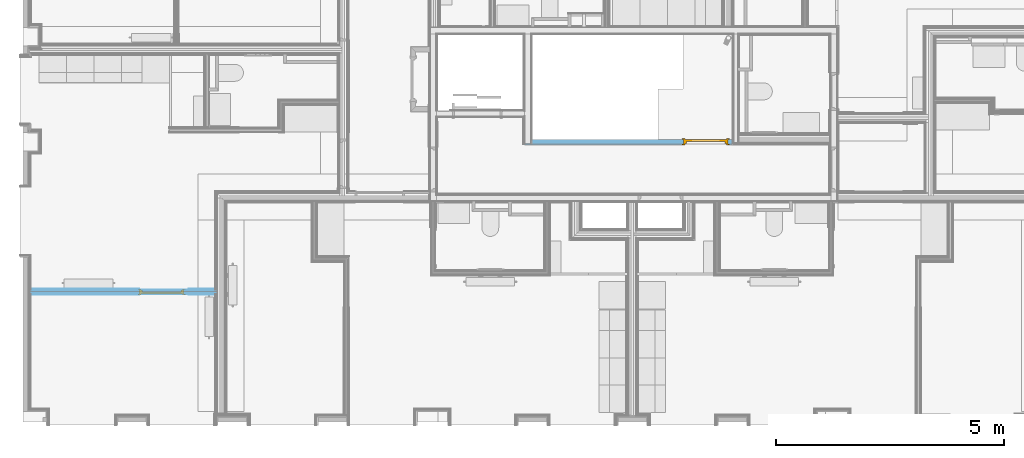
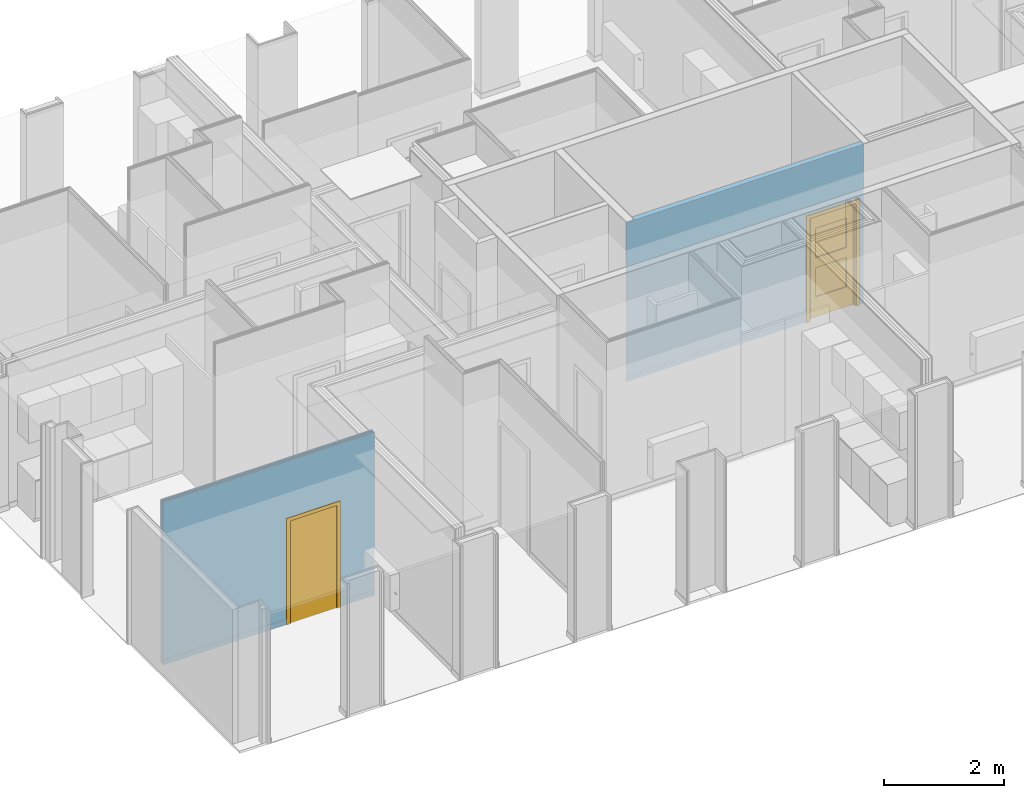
# One storey, part 47 of 64: 2 doors, 2 openings, 1 element without a shape of its own, plus 8 elements that do not belong to this part.
"""IFC2X3 building model written with IfcOpenShell, lengths in metres."""

from ifc_helpers import new_model, entity, si_unit, converted_unit, derived_unit, money_unit, direction, frame, frame_2d, origin_with_axes, place, context, subcontext, project, spatial, polyline, rectangle, outline, extrude, clip, bounded_halfspace, faceted_brep, material, layer, layer_set, layer_usage, type_object, element, fill, aggregate, save


model = new_model("IFC2X3")

# Units and contexts
model_context = context("Model", 3, precision=1e-05, world=origin_with_axes(), true_north=direction((0.0, 1.0)))
body_context = subcontext(model_context, "Body", "Model", "MODEL_VIEW", scale=1.0)
ifc_project = project(units=[si_unit("LENGTHUNIT", "METRE"), si_unit("AREAUNIT", "SQUARE_METRE"), si_unit("VOLUMEUNIT", "CUBIC_METRE"), si_unit("ABSORBEDDOSEUNIT", "GRAY"), si_unit("AMOUNTOFSUBSTANCEUNIT", "MOLE"), si_unit("DOSEEQUIVALENTUNIT", "SIEVERT"), si_unit("ELECTRICCAPACITANCEUNIT", "FARAD"), si_unit("ELECTRICCHARGEUNIT", "COULOMB"), si_unit("ELECTRICCONDUCTANCEUNIT", "SIEMENS"), si_unit("ELECTRICCURRENTUNIT", "AMPERE"), si_unit("ELECTRICRESISTANCEUNIT", "OHM"), si_unit("ELECTRICVOLTAGEUNIT", "VOLT"), si_unit("ENERGYUNIT", "JOULE"), si_unit("FORCEUNIT", "NEWTON"), si_unit("FREQUENCYUNIT", "HERTZ"), si_unit("ILLUMINANCEUNIT", "LUX"), si_unit("INDUCTANCEUNIT", "HENRY"), si_unit("LUMINOUSFLUXUNIT", "LUMEN"), si_unit("LUMINOUSINTENSITYUNIT", "CANDELA"), si_unit("MAGNETICFLUXDENSITYUNIT", "TESLA"), si_unit("MAGNETICFLUXUNIT", "WEBER"), si_unit("MASSUNIT", "GRAM"), converted_unit("PLANEANGLEUNIT", "degree", entity("IfcReal", 0.0174532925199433), si_unit("PLANEANGLEUNIT", "RADIAN"), dimensions=[0, 0, 0, 0, 0, 0, 0]), si_unit("POWERUNIT", "WATT"), si_unit("PRESSUREUNIT", "PASCAL"), si_unit("RADIOACTIVITYUNIT", "BECQUEREL"), si_unit("SOLIDANGLEUNIT", "STERADIAN"), si_unit("THERMODYNAMICTEMPERATUREUNIT", "KELVIN"), si_unit("TIMEUNIT", "SECOND"), derived_unit("ACCELERATIONUNIT", [(si_unit("LENGTHUNIT", "METRE"), 1), (si_unit("TIMEUNIT", "SECOND"), -2)]), derived_unit("ANGULARVELOCITYUNIT", [(converted_unit("PLANEANGLEUNIT", "degree", entity("IfcReal", 0.0174532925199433), si_unit("PLANEANGLEUNIT", "RADIAN"), dimensions=[0, 0, 0, 0, 0, 0, 0]), 1), (si_unit("TIMEUNIT", "SECOND"), -1)]), derived_unit("CURVATUREUNIT", [(converted_unit("PLANEANGLEUNIT", "degree", entity("IfcReal", 0.0174532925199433), si_unit("PLANEANGLEUNIT", "RADIAN"), dimensions=[0, 0, 0, 0, 0, 0, 0]), 1), (si_unit("LENGTHUNIT", "METRE"), -1)]), derived_unit("DYNAMICVISCOSITYUNIT", [(si_unit("PRESSUREUNIT", "PASCAL"), 1), (si_unit("TIMEUNIT", "SECOND"), 1)]), derived_unit("HEATFLUXDENSITYUNIT", [(si_unit("POWERUNIT", "WATT"), 1), (si_unit("LENGTHUNIT", "METRE"), -2)]), derived_unit("HEATINGVALUEUNIT", [(si_unit("ENERGYUNIT", "JOULE"), 1), (si_unit("MASSUNIT", "GRAM"), -1)]), derived_unit("INTEGERCOUNTRATEUNIT", [(si_unit("TIMEUNIT", "SECOND"), -1)]), derived_unit("IONCONCENTRATIONUNIT", [(si_unit("MASSUNIT", "GRAM"), 1), (si_unit("VOLUMEUNIT", "CUBIC_METRE"), -1)]), derived_unit("ISOTHERMALMOISTURECAPACITYUNIT", [(si_unit("VOLUMEUNIT", "CUBIC_METRE"), 1), (si_unit("MASSUNIT", "GRAM"), -1)]), derived_unit("KINEMATICVISCOSITYUNIT", [(si_unit("AREAUNIT", "SQUARE_METRE"), 1), (si_unit("TIMEUNIT", "SECOND"), -1)]), derived_unit("LINEARFORCEUNIT", [(si_unit("FORCEUNIT", "NEWTON"), 1), (si_unit("LENGTHUNIT", "METRE"), -1)]), derived_unit("LINEARMOMENTUNIT", [(si_unit("FORCEUNIT", "NEWTON"), 1), (si_unit("LENGTHUNIT", "METRE"), -1)]), derived_unit("LINEARSTIFFNESSUNIT", [(si_unit("FORCEUNIT", "NEWTON"), 1), (si_unit("LENGTHUNIT", "METRE"), -1)]), derived_unit("LINEARVELOCITYUNIT", [(si_unit("LENGTHUNIT", "METRE"), 1), (si_unit("TIMEUNIT", "SECOND"), -1)]), derived_unit("LUMINOUSINTENSITYDISTRIBUTIONUNIT", [(si_unit("LUMINOUSINTENSITYUNIT", "CANDELA"), 1), (si_unit("LUMINOUSFLUXUNIT", "LUMEN"), -1)]), derived_unit("MASSDENSITYUNIT", [(si_unit("MASSUNIT", "GRAM"), 1), (si_unit("VOLUMEUNIT", "CUBIC_METRE"), -1)]), derived_unit("MASSFLOWRATEUNIT", [(si_unit("MASSUNIT", "GRAM"), 1), (si_unit("TIMEUNIT", "SECOND"), -1)]), derived_unit("MASSPERLENGTHUNIT", [(si_unit("MASSUNIT", "GRAM"), 1), (si_unit("LENGTHUNIT", "METRE"), -1)]), derived_unit("MODULUSOFELASTICITYUNIT", [(si_unit("FORCEUNIT", "NEWTON"), 1), (si_unit("AREAUNIT", "SQUARE_METRE"), -1)]), derived_unit("MODULUSOFLINEARSUBGRADEREACTIONUNIT", [(si_unit("FORCEUNIT", "NEWTON"), 1), (si_unit("LENGTHUNIT", "METRE"), -2)]), derived_unit("MODULUSOFROTATIONALSUBGRADEREACTIONUNIT", [(si_unit("FORCEUNIT", "NEWTON"), 1), (si_unit("LENGTHUNIT", "METRE"), 1)]), derived_unit("MODULUSOFSUBGRADEREACTIONUNIT", [(si_unit("FORCEUNIT", "NEWTON"), 1), (si_unit("VOLUMEUNIT", "CUBIC_METRE"), -1)]), derived_unit("MOISTUREDIFFUSIVITYUNIT", [(si_unit("VOLUMEUNIT", "CUBIC_METRE"), 1), (si_unit("TIMEUNIT", "SECOND"), -1)]), derived_unit("MOLECULARWEIGHTUNIT", [(si_unit("MASSUNIT", "GRAM"), 1), (si_unit("AMOUNTOFSUBSTANCEUNIT", "MOLE"), -1)]), derived_unit("PLANARFORCEUNIT", [(si_unit("FORCEUNIT", "NEWTON"), 1), (si_unit("LENGTHUNIT", "METRE"), -2)]), derived_unit("ROTATIONALFREQUENCYUNIT", [(si_unit("TIMEUNIT", "SECOND"), -1)]), derived_unit("ROTATIONALMASSUNIT", [(si_unit("MASSUNIT", "GRAM"), 1), (si_unit("LENGTHUNIT", "METRE"), 2)]), derived_unit("ROTATIONALSTIFFNESSUNIT", [(si_unit("FORCEUNIT", "NEWTON"), 1), (si_unit("LENGTHUNIT", "METRE"), 1), (converted_unit("PLANEANGLEUNIT", "degree", entity("IfcReal", 0.0174532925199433), si_unit("PLANEANGLEUNIT", "RADIAN"), dimensions=[0, 0, 0, 0, 0, 0, 0]), -1)]), derived_unit("SECTIONAREAINTEGRALUNIT", [(si_unit("LENGTHUNIT", "METRE"), 5)]), derived_unit("SECTIONMODULUSUNIT", [(si_unit("LENGTHUNIT", "METRE"), 3)]), derived_unit("SHEARMODULUSUNIT", [(si_unit("FORCEUNIT", "NEWTON"), 1), (si_unit("AREAUNIT", "SQUARE_METRE"), -1)]), derived_unit("SOUNDPOWERUNIT", [(si_unit("ENERGYUNIT", "JOULE"), 1), (si_unit("TIMEUNIT", "SECOND"), -1)]), derived_unit("SPECIFICHEATCAPACITYUNIT", [(si_unit("FORCEUNIT", "NEWTON"), 1), (si_unit("MASSUNIT", "GRAM"), -1), (si_unit("THERMODYNAMICTEMPERATUREUNIT", "KELVIN"), -1)]), derived_unit("TEMPERATUREGRADIENTUNIT", [(si_unit("THERMODYNAMICTEMPERATUREUNIT", "KELVIN"), 1), (si_unit("LENGTHUNIT", "METRE"), -1)]), derived_unit("THERMALADMITTANCEUNIT", [(si_unit("POWERUNIT", "WATT"), 1), (si_unit("AREAUNIT", "SQUARE_METRE"), -1), (si_unit("THERMODYNAMICTEMPERATUREUNIT", "KELVIN"), -1)]), derived_unit("THERMALCONDUCTANCEUNIT", [(si_unit("POWERUNIT", "WATT"), 1), (si_unit("LENGTHUNIT", "METRE"), -1), (si_unit("THERMODYNAMICTEMPERATUREUNIT", "KELVIN"), -1)]), derived_unit("THERMALEXPANSIONCOEFFICIENTUNIT", [(si_unit("THERMODYNAMICTEMPERATUREUNIT", "KELVIN"), -1)]), derived_unit("THERMALRESISTANCEUNIT", [(si_unit("AREAUNIT", "SQUARE_METRE"), 1), (si_unit("POWERUNIT", "WATT"), -1)]), derived_unit("THERMALTRANSMITTANCEUNIT", [(si_unit("POWERUNIT", "WATT"), 1), (si_unit("AREAUNIT", "SQUARE_METRE"), -1), (si_unit("THERMODYNAMICTEMPERATUREUNIT", "KELVIN"), -1)]), derived_unit("TORQUEUNIT", [(si_unit("FORCEUNIT", "NEWTON"), 1), (si_unit("LENGTHUNIT", "METRE"), 1)]), derived_unit("VAPORPERMEABILITYUNIT", [(si_unit("MASSUNIT", "GRAM"), 1), (si_unit("TIMEUNIT", "SECOND"), -1)]), derived_unit("VOLUMETRICFLOWRATEUNIT", [(si_unit("VOLUMEUNIT", "CUBIC_METRE"), 1), (si_unit("TIMEUNIT", "SECOND"), -1)]), derived_unit("WARPINGCONSTANTUNIT", [(si_unit("LENGTHUNIT", "METRE"), 6)]), derived_unit("WARPINGMOMENTUNIT", [(si_unit("FORCEUNIT", "NEWTON"), 1), (si_unit("LENGTHUNIT", "METRE"), 2)]), money_unit("GBP")], contexts=[model_context])

# Site, building, storey
site_placement = place(None, origin_with_axes())
site = spatial("IfcSite", under=ifc_project, at=site_placement, Name="Site", CompositionType="ELEMENT")
building_placement = place(site_placement, origin_with_axes())
building = spatial("IfcBuilding", under=site, at=building_placement, Name="Building01", CompositionType="ELEMENT")
storey_placement = place(building_placement, frame((0.0, 0.0, 8.64), z_axis=(0.0, 0.0, 1.0), x_axis=(1.0, 0.0, 0.0)))
storey = spatial("IfcBuildingStorey", under=building, at=storey_placement, Name="2F", CompositionType="ELEMENT", Elevation=8.64)

# Wall, opening
ifc_material_1 = material(Name="A_BSUK_Walls_Timber")
ifc_layer_1 = layer(ifc_material_1, 0.015, ventilated=False)
ifc_material_2 = material(Name="A_BSUK_WallInternal_Finishes_Plasterboard")
ifc_layer_2 = layer(ifc_material_2, 0.013, ventilated=False)
ifc_layer_3 = layer(ifc_material_2, 0.012, ventilated=False)
ifc_material_3 = material(Name="Air Cavity")
ifc_layer_4 = layer(ifc_material_3, 0.05, ventilated=False)
ifc_layer_set = layer_set([ifc_layer_1, ifc_layer_2, ifc_layer_3, ifc_layer_4, ifc_layer_3, ifc_layer_2])
ifc_layer_usage = layer_usage(ifc_layer_set, "AXIS2", "POSITIVE", 0.0)
wall_type_1 = type_object("IfcWallType", Name="SHE_A-Walls_Type03c_Firewall_F120_100mm", PredefinedType="NOTDEFINED")
wall_1_placement = place(storey_placement, frame((11.115, 6.25, 0.015), z_axis=(0.0, 0.0, 1.0), x_axis=(1.0, 0.0, 0.0)))
wall_1 = element("IfcWallStandardCase", 1, at=wall_1_placement, inside=storey, type_object=wall_type_1, material=ifc_layer_usage, Name="3C", ObjectType="SHE_A-Walls_Type03c_Firewall_F120_100mm", context=body_context, shape_type="Clipping", body=[
    clip(clip(extrude(outline(polyline([(4.585, 0.0), (4.585, 0.1), (0.185, 0.1), (0.185, 0.013), (0.015, 0.013), (0.015, 0.0), (0.0, 0.0), (0.0, -0.015), (4.57, -0.015), (4.585, 0.0)])), frame((0.0, 0.0, -0.015), z_axis=(0.0, 0.0, 1.0), x_axis=(1.0, 0.0, 0.0)), (0.0, 0.0, 1.0), 3.24), bounded_halfspace(frame((0.0, 0.0, 0.1), z_axis=(0.0, 0.0, 1.0), x_axis=(1.0, 0.0, 0.0)), False, frame((0.0, 0.0, 0.1), z_axis=(0.0, 0.0, 1.0), x_axis=(1.0, 0.0, 0.0)), polyline([(4.585, 0.0), (0.0, 0.0), (0.0, -0.015), (4.57, -0.015), (4.585, 0.0)]))), bounded_halfspace(frame((0.0, 0.0, 0.0), z_axis=(0.0, 0.0, -1.0), x_axis=(-1.0, 0.0, 0.0)), False, frame((0.0, 0.0, 0.0), z_axis=(0.0, 0.0, -1.0), x_axis=(-1.0, 0.0, 0.0)), polyline([(-4.57, -0.015), (0.0, -0.015), (0.0, 0.0), (-4.585, 0.0), (-4.57, -0.015)]))),
])
opening_1_placement = place(wall_1_placement, frame((3.501, -0.015, -0.03), z_axis=(0.0, 0.0, 1.0), x_axis=(1.0, 0.0, 0.0)))
opening_1 = element("IfcOpeningElement", 2, at=opening_1_placement, cuts=wall_1, Name="Opening", ObjectType="Opening", context=body_context, shape_type="SweptSolid", body=[
    extrude(rectangle(XDim=2.142, YDim=0.984, at=frame_2d((-0.492, 1.071), x_axis=(0.0, 1.0))), frame((0.0, 0.0, 0.0), z_axis=(0.0, 1.0, 0.0), x_axis=(-1.0, 0.0, 0.0)), (0.0, 0.0, 1.0), 0.115),
])

# Space
space_1_placement = place(storey_placement, frame((14.606971, 7.454282, 0.017932), z_axis=(0.0, 0.0, 1.0), x_axis=(-1.0, 0.0, 0.0)))
space_1 = spatial("IfcSpace", under=storey, at=space_1_placement, Name="landing", CompositionType="ELEMENT", InteriorOrExteriorSpace="NOTDEFINED")

# Door
ifc_material_4 = material(Name="A_BSUK_Doors")
door_style_1 = type_object("IfcDoorStyle", Name="A-Doors-SingleVisionPanels", ConstructionType="USERDEFINED", OperationType="SINGLE_SWING_RIGHT", ParameterTakesPrecedence=False, Sizeable=False)
door_1_placement = place(opening_1_placement, frame((0.042, 0.115, 0.015), z_axis=(0.0, 0.0, 1.0), x_axis=(1.0, 0.0, 0.0)))
door_1 = element("IfcDoor", 3, at=door_1_placement, inside=space_1, type_object=door_style_1, material=ifc_material_4, Name="2.04", ObjectType="A-Doors-SingleVisionPanels", OverallHeight=2.14200000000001, OverallWidth=0.984000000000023, context=body_context, shape_type="Brep", body=[
    faceted_brep([(0.9, -0.119, 0.0), (0.969, -0.119, 0.0), (0.969, -0.119, 2.169), (-0.069, -0.119, 2.169), (-0.069, -0.119, 0.0), (0.0, -0.119, 0.0), (0.0, -0.119, 2.1), (0.9, -0.119, 2.1), (-0.069, -0.1, 0.0), (-0.069, -0.1, 2.169), (0.969, -0.1, 2.169), (0.969, -0.1, 0.0), (0.9, 0.019, 0.0), (0.969, 0.019, 0.0), (0.969, 0.0, 0.0), (0.942, 0.0, 0.0), (0.942, -0.1, 0.0), (0.9, 0.019, 2.1), (0.0, 0.019, 2.1), (0.0, 0.019, 0.0), (-0.069, 0.019, 0.0), (-0.069, 0.019, 2.169), (0.969, 0.019, 2.169), (0.969, 0.0, 2.169), (0.942, -0.1, 2.142), (0.942, 0.0, 2.142), (-0.042, -0.1, 2.142), (-0.042, 0.0, 2.142), (-0.042, -0.1, 0.0), (-0.042, 0.0, 0.0), (-0.069, 0.0, 2.169), (-0.069, 0.0, 0.0)], [[[0, 1, 2, 3, 4, 5, 6, 7]], [[8, 4, 3, 9]], [[10, 2, 1, 11]], [[9, 3, 2, 10]], [[12, 13, 14, 15, 16, 11, 1, 0]], [[7, 17, 12, 0]], [[6, 18, 17, 7]], [[18, 19, 20, 21, 22, 13, 12, 17]], [[5, 19, 18, 6]], [[13, 22, 23, 14]], [[24, 16, 15, 25]], [[26, 24, 25, 27]], [[11, 16, 24, 26, 28, 8, 9, 10]], [[27, 29, 28, 26]], [[25, 15, 14, 23, 30, 31, 29, 27]], [[5, 4, 8, 28, 29, 31, 20, 19]], [[30, 21, 20, 31]], [[23, 22, 21, 30]]]),
    faceted_brep([(0.0, -0.09, 2.1), (0.0, -0.04, 2.1), (0.0, -0.04, 0.0), (0.0, -0.09, 0.0), (0.875, -0.09, 0.0), (0.9, -0.09, 0.0), (0.9, -0.09, 2.1), (0.025, -0.09, 0.0), (0.025, -0.09, 2.075), (0.875, -0.09, 2.075), (0.875, -0.04, 0.0), (0.9, -0.04, 0.0), (0.9, -0.04, 2.1), (0.025, -0.04, 2.075), (0.025, -0.04, 0.0), (0.875, -0.04, 2.075)], [[[0, 1, 2, 3]], [[4, 5, 6, 0, 3, 7, 8, 9]], [[10, 11, 5, 4]], [[6, 12, 1, 0]], [[5, 11, 12, 6]], [[13, 14, 2, 1, 12, 11, 10, 15]], [[7, 14, 13, 8]], [[7, 3, 2, 14]], [[9, 15, 10, 4]], [[8, 13, 15, 9]]]),
    faceted_brep([(0.75, -0.017, 1.0), (0.75, -0.023, 1.0), (0.75, -0.023, 0.4), (0.75, -0.017, 0.4), (0.15, -0.017, 0.4), (0.15, -0.023, 0.4), (0.15, -0.023, 1.0), (0.15, -0.017, 1.0)], [[[0, 1, 2, 3]], [[4, 5, 6, 7]], [[7, 6, 1, 0]], [[3, 4, 7, 0]], [[3, 2, 5, 4]], [[1, 6, 5, 2]]]),
    faceted_brep([(0.75, -0.017, 1.8), (0.75, -0.023, 1.8), (0.75, -0.023, 1.2), (0.75, -0.017, 1.2), (0.15, -0.017, 1.2), (0.15, -0.023, 1.2), (0.15, -0.023, 1.8), (0.15, -0.017, 1.8)], [[[0, 1, 2, 3]], [[4, 5, 6, 7]], [[7, 6, 1, 0]], [[3, 4, 7, 0]], [[3, 2, 5, 4]], [[1, 6, 5, 2]]]),
    faceted_brep([(0.15, -0.04, 1.8), (0.15, 0.0, 1.8), (0.75, 0.0, 1.8), (0.75, -0.04, 1.8), (0.15, -0.04, 0.4), (0.15, 0.0, 0.4), (0.15, 0.0, 1.0), (0.15, -0.04, 1.0), (0.75, -0.04, 0.4), (0.75, 0.0, 0.4), (0.75, -0.04, 1.0), (0.75, 0.0, 1.0), (0.0, 0.0, 2.1), (0.9, 0.0, 2.1), (0.9, 0.0, 0.0), (0.0, 0.0, 0.0), (0.15, 0.0, 1.2), (0.75, 0.0, 1.2), (0.0, -0.04, 2.1), (0.0, -0.04, 0.0), (0.9, -0.04, 2.1), (0.9, -0.04, 0.0), (0.15, -0.04, 1.2), (0.75, -0.04, 1.2)], [[[0, 1, 2, 3]], [[4, 5, 6, 7]], [[8, 9, 5, 4]], [[10, 11, 9, 8]], [[7, 6, 11, 10]], [[12, 13, 14, 15], [5, 9, 11, 6], [16, 17, 2, 1]], [[18, 12, 15, 19]], [[20, 13, 12, 18]], [[21, 14, 13, 20]], [[19, 15, 14, 21]], [[22, 16, 1, 0]], [[23, 17, 16, 22]], [[3, 2, 17, 23]], [[19, 21, 20, 18], [4, 7, 10, 8], [22, 0, 3, 23]]]),
])

fill(opening_1, door_1)

# Space
space_2_placement = place(storey_placement, frame((0.318, 8.21067, 0.017975), z_axis=(0.0, 0.0, 1.0), x_axis=(0.0, -1.0, 0.0)))
space_2 = spatial("IfcSpace", under=storey, at=space_2_placement, Name="13", CompositionType="ELEMENT", InteriorOrExteriorSpace="NOTDEFINED")

# Door
door_style_2 = type_object("IfcDoorStyle", Name="A-Doors-SingleFlush", ConstructionType="USERDEFINED", OperationType="SINGLE_SWING_LEFT", ParameterTakesPrecedence=False, Sizeable=False)
wall_2_placement = place(storey_placement, frame((0.318, 3.030286, 0.0), z_axis=(0.0, 0.0, 1.0), x_axis=(1.0, 0.0, 0.0)))
opening_2_placement = place(wall_2_placement, frame((2.391, -0.075, -0.03), z_axis=(0.0, 0.0, 1.0), x_axis=(1.0, 0.0, 0.0)))
door_2_placement = place(opening_2_placement, frame((0.942, 0.015, 0.03), z_axis=(0.0, 0.0, 1.0), x_axis=(-1.0, 0.0, 0.0)))
door_2 = element("IfcDoor", 4, at=door_2_placement, inside=space_2, type_object=door_style_2, material=ifc_material_4, Name="2.19", ObjectType="A-Doors-SingleFlush", OverallHeight=2.17200000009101, OverallWidth=1.08300000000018, context=body_context, shape_type="Brep", body=[
    faceted_brep([(0.0, -0.114, 2.1), (0.9, -0.114, 2.1), (0.9, -0.114, 0.0), (0.969, -0.114, 0.0), (0.969, -0.114, 2.169), (-0.069, -0.114, 2.169), (-0.069, -0.114, 0.0), (0.0, -0.114, 0.0), (0.969, -0.095, 2.169), (0.969, -0.095, 0.0), (-0.069, -0.095, 0.0), (-0.069, -0.095, 2.169), (-0.042, -0.095, 0.0), (-0.042, 0.0, 0.0), (-0.069, 0.0, 0.0), (-0.069, 0.019, 0.0), (0.0, 0.019, 0.0), (0.0, 0.019, 2.1), (0.9, 0.019, 2.1), (-0.069, 0.019, 2.169), (0.969, 0.019, 2.169), (0.969, 0.019, 0.0), (0.9, 0.019, 0.0), (-0.069, 0.0, 2.169), (-0.042, 0.0, 2.142), (-0.042, -0.095, 2.142), (0.942, 0.0, 2.142), (0.942, -0.095, 2.142), (0.942, -0.095, 0.0), (0.942, 0.0, 0.0), (0.969, 0.0, 0.0), (0.969, 0.0, 2.169)], [[[0, 1, 2, 3, 4, 5, 6, 7]], [[8, 4, 3, 9]], [[10, 6, 5, 11]], [[11, 5, 4, 8]], [[7, 6, 10, 12, 13, 14, 15, 16]], [[7, 16, 17, 0]], [[0, 17, 18, 1]], [[17, 16, 15, 19, 20, 21, 22, 18]], [[1, 18, 22, 2]], [[14, 23, 19, 15]], [[24, 13, 12, 25]], [[26, 24, 25, 27]], [[11, 8, 9, 28, 27, 25, 12, 10]], [[27, 28, 29, 26]], [[26, 29, 30, 31, 23, 14, 13, 24]], [[22, 21, 30, 29, 28, 9, 3, 2]], [[30, 21, 20, 31]], [[31, 20, 19, 23]]]),
    faceted_brep([(0.9, -0.09, 0.0), (0.9, -0.04, 0.0), (0.9, -0.04, 2.1), (0.9, -0.09, 2.1), (0.025, -0.09, 2.075), (0.875, -0.09, 2.075), (0.875, -0.09, 0.0), (0.0, -0.09, 2.1), (0.0, -0.09, 0.0), (0.025, -0.09, 0.0), (0.0, -0.04, 0.0), (0.025, -0.04, 0.0), (0.0, -0.04, 2.1), (0.025, -0.04, 2.075), (0.875, -0.04, 0.0), (0.875, -0.04, 2.075)], [[[0, 1, 2, 3]], [[4, 5, 6, 0, 3, 7, 8, 9]], [[9, 8, 10, 11]], [[3, 2, 12, 7]], [[7, 12, 10, 8]], [[13, 11, 10, 12, 2, 1, 14, 15]], [[5, 15, 14, 6]], [[14, 1, 0, 6]], [[9, 11, 13, 4]], [[4, 13, 15, 5]]]),
    faceted_brep([(0.0, -0.04, 2.1), (0.0, 0.0, 2.1), (0.0, 0.0, 0.0), (0.0, -0.04, 0.0), (0.9, -0.04, 0.0), (0.9, 0.0, 0.0), (0.9, 0.0, 2.1), (0.9, -0.04, 2.1)], [[[0, 1, 2, 3]], [[4, 5, 6, 7]], [[3, 2, 5, 4]], [[3, 4, 7, 0]], [[7, 6, 1, 0]], [[1, 6, 5, 2]]]),
])

# Wall, opening
wall_type_2 = type_object("IfcWallType", Name="SHE_A-Walls_Type05a_Partition_95mm_tall", PredefinedType="NOTDEFINED")
wall_2 = element("IfcWall", 5, at=wall_2_placement, inside=storey, type_object=wall_type_2, Name="5A", ObjectType="SHE_A-Walls_Type05a_Partition_95mm_tall")
opening_2 = element("IfcOpeningElement", 6, at=opening_2_placement, cuts=wall_2, Name="Opening", ObjectType="Opening", context=body_context, shape_type="SweptSolid", body=[
    extrude(outline(polyline([(-0.984, 0.0), (-0.099, 0.0), (-0.099, 0.03), (0.0, 0.03), (0.0, 2.172), (-0.984, 2.172), (-0.984, 0.0)])), frame((0.0, 0.0, 0.0), z_axis=(0.0, 1.0, 0.0), x_axis=(-1.0, 0.0, 0.0)), (0.0, 0.0, 1.0), 0.125),
    extrude(rectangle(XDim=0.984, YDim=2.172, at=frame_2d((-0.492, 1.086), x_axis=(1.0, 0.0))), frame((0.0, 0.015, 0.0), z_axis=(0.0, 1.0, 0.0), x_axis=(-1.0, 0.0, 0.0)), (0.0, 0.0, 1.0), 0.012),
    extrude(outline(polyline([(-0.099, 0.03), (0.0, 0.03), (0.0, 2.172), (-0.984, 2.172), (-0.984, 2.142), (-1.083, 2.142), (-1.083, 0.0), (-0.099, 0.0), (-0.099, 0.03)])), frame((0.0, 0.0, 0.0), z_axis=(0.0, 1.0, 0.0), x_axis=(-1.0, 0.0, 0.0)), (0.0, 0.0, 1.0), 0.015),
    extrude(rectangle(XDim=0.984, YDim=2.172, at=frame_2d((-0.492, 1.086), x_axis=(1.0, 0.0))), frame((0.0, 0.027, 0.0), z_axis=(0.0, 1.0, 0.0), x_axis=(-1.0, 0.0, 0.0)), (0.0, 0.0, 1.0), 0.023),
    extrude(outline(polyline([(-0.984, 0.0), (-0.042, 0.0), (-0.042, 0.03), (0.0, 0.03), (0.0, 2.172), (-0.984, 2.172), (-0.984, 0.0)])), frame((0.0, 0.05, 0.0), z_axis=(0.0, 1.0, 0.0), x_axis=(-1.0, 0.0, 0.0)), (0.0, 0.0, 1.0), 0.025),
    extrude(outline(polyline([(-0.984, 0.0), (-0.042, 0.0), (-0.042, 0.03), (0.0, 0.03), (0.0, 2.172), (-0.984, 2.172), (-0.984, 0.0)])), frame((0.0, 0.075, 0.0), z_axis=(0.0, 1.0, 0.0), x_axis=(-1.0, 0.0, 0.0)), (0.0, 0.0, 1.0), 0.023),
    extrude(outline(polyline([(-0.984, 0.0), (-0.042, 0.0), (-0.042, 0.03), (0.0, 0.03), (0.0, 2.172), (-0.984, 2.172), (-0.984, 0.0)])), frame((0.0, 0.098, 0.0), z_axis=(0.0, 1.0, 0.0), x_axis=(-1.0, 0.0, 0.0)), (0.0, 0.0, 1.0), 0.012),
    extrude(outline(polyline([(-0.099, 0.03), (0.0, 0.03), (0.0, 2.172), (-0.984, 2.172), (-0.984, 2.142), (-1.083, 2.142), (-1.083, 0.0), (-0.099, 0.0), (-0.099, 0.03)])), frame((0.0, 0.11, 0.0), z_axis=(0.0, 1.0, 0.0), x_axis=(-1.0, 0.0, 0.0)), (0.0, 0.0, 1.0), 0.015),
])

fill(opening_2, door_2)

# Building element part
placement = place(wall_2_placement, origin_with_axes())
building_element_part_1 = element("IfcBuildingElementPart", 7, at=placement, material=ifc_material_1, Name="1", context=body_context, shape_type="SweptSolid", body=[
    extrude(rectangle(XDim=4.037, YDim=0.015, at=frame_2d((2.0335, -0.0675), x_axis=(-1.0, 0.0))), frame((0.0, 0.0, 0.015), z_axis=(0.0, 0.0, 1.0), x_axis=(1.0, 0.0, 0.0)), (0.0, 0.0, 1.0), 0.1),
])

building_element_part_2 = element("IfcBuildingElementPart", 8, at=placement, material=ifc_material_2, Name="2", context=body_context, shape_type="SweptSolid", body=[
    extrude(rectangle(XDim=4.067, YDim=0.012, at=frame_2d((2.0335, -0.054), x_axis=(-1.0, 0.0))), origin_with_axes(), (0.0, 0.0, 1.0), 3.32),
])

building_element_part_3 = element("IfcBuildingElementPart", 9, at=placement, material=ifc_material_3, Name="3", context=body_context, shape_type="SweptSolid", body=[
    extrude(rectangle(XDim=4.067, YDim=0.023, at=frame_2d((2.0335, -0.0365), x_axis=(-1.0, 0.0))), origin_with_axes(), (0.0, 0.0, 1.0), 3.32),
])

ifc_material_5 = material(Name="A_BSUK_Insulation")
building_element_part_4 = element("IfcBuildingElementPart", 10, at=placement, material=ifc_material_5, Name="4", context=body_context, shape_type="SweptSolid", body=[
    extrude(rectangle(XDim=4.067, YDim=0.025, at=frame_2d((2.0335, -0.0125), x_axis=(-1.0, 0.0))), origin_with_axes(), (0.0, 0.0, 1.0), 3.32),
])

building_element_part_5 = element("IfcBuildingElementPart", 11, at=placement, material=ifc_material_3, Name="5", context=body_context, shape_type="SweptSolid", body=[
    extrude(rectangle(XDim=4.067, YDim=0.023, at=frame_2d((2.0335, 0.0115), x_axis=(-1.0, 0.0))), origin_with_axes(), (0.0, 0.0, 1.0), 3.32),
])

building_element_part_6 = element("IfcBuildingElementPart", 12, at=placement, material=ifc_material_2, Name="6", context=body_context, shape_type="SweptSolid", body=[
    extrude(rectangle(XDim=4.067, YDim=0.012, at=frame_2d((2.0335, 0.029), x_axis=(-1.0, 0.0))), origin_with_axes(), (0.0, 0.0, 1.0), 3.32),
])

building_element_part_7 = element("IfcBuildingElementPart", 13, at=placement, material=ifc_material_1, Name="7", context=body_context, shape_type="SweptSolid", body=[
    extrude(rectangle(XDim=4.037, YDim=0.015, at=frame_2d((2.0335, 0.0425), x_axis=(-1.0, 0.0))), frame((0.0, 0.0, 0.015), z_axis=(0.0, 0.0, 1.0), x_axis=(1.0, 0.0, 0.0)), (0.0, 0.0, 1.0), 0.1),
])

aggregate(wall_2, [building_element_part_1, building_element_part_2, building_element_part_3, building_element_part_4, building_element_part_5, building_element_part_6, building_element_part_7])

save(model, "model.ifc")
